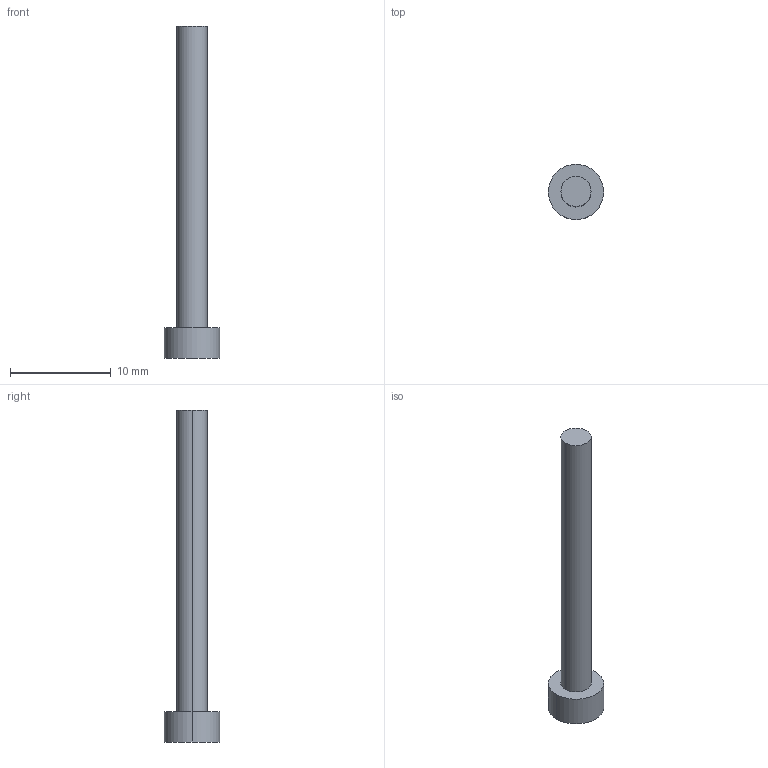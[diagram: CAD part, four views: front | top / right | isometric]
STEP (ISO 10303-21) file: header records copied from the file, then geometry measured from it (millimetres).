
FILE_DESCRIPTION (( 'STEP AP203' ), '1' );
FILE_NAME ('REF_M3x30_screw.step', '2026-10-07T08:23:13', ( '' ), ( '' ), 'SwSTEP 2.0', 'SolidWorks 2025', '' );
FILE_SCHEMA (( 'CONFIG_CONTROL_DESIGN' ));
Length unit declared in the file: millimetre
Products named in the file (1): REF_M3x30_screw
Bounding box: 5.5 x 5.5 x 33 mm (x, y, z)
Volume: 283.3 mm3; surface area: 382.1 mm2
Topology: 1 solids, 1 shells, 7 faces, 12 edges, 8 vertices
Faces by surface type: cylinder 4, plane 3
Entity records: 251 total; most frequent: DIRECTION 36, CARTESIAN_POINT 28, ORIENTED_EDGE 24, AXIS2_PLACEMENT_3D 16, EDGE_CURVE 12, EDGE_LOOP 8, VERTEX_POINT 8, CIRCLE 8
